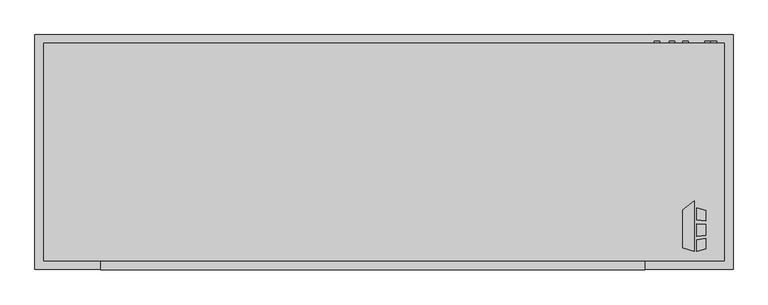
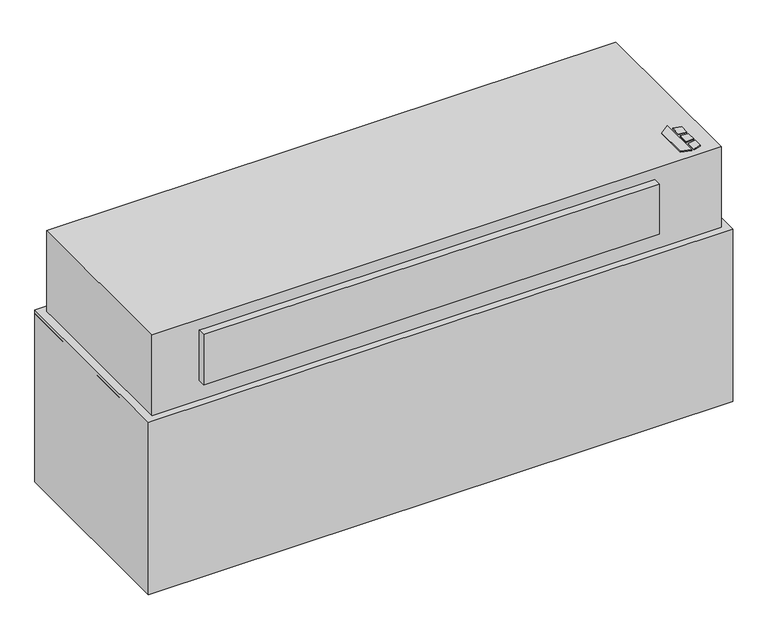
"""IFC4 building model written with IfcOpenShell, lengths in millimetres: proxy geometry, Horizontal_Telescoping_Fan_Coil_Unit_-_CBY_-_IEC_-_4-Pipe_RH_2022 : Size 12 - 277v/60Hz/1Ph - 4/1 Coil."""

from ifc_helpers import new_model, si_unit, point, frame, frame_2d, origin, origin_with_axes, place, context, project, spatial, polyline, circle_curve, trimmed, segment, composite_curve, outline, extrude, source, transform, mapped, element, save


def mechanical_equipment_d87b259f(model_context):
    return source(origin(), model_context, "Body", "SweptSolid", [
        extrude(outline(polyline([(988.7019761, -401.0078476), (1021.2602728, -375.5705184), (1021.2602728, -517.525), (988.7019761, -507.3054201), (988.7019761, -401.0078476)])), origin_with_axes(), (0.0, 0.0, 1.0), 3.175),
        extrude(outline(polyline([(1028.0186058, -428.879852), (1028.0186058, -394.3999379), (1054.1, -402.5865115), (1054.1, -432.0822446), (1028.0186058, -428.879852)])), origin_with_axes(), (0.0, 0.0, 1.0), 3.175),
        extrude(outline(polyline([(1054.1, -510.5365115), (1028.0186058, -517.525), (1028.0186058, -484.3036996), (1054.1, -480.7618564), (1054.1, -510.5365115)])), origin_with_axes(), (0.0, 0.0, 1.0), 3.175),
        extrude(outline(polyline([(1054.1, -441.1638277), (1054.1, -472.413983), (1028.0186058, -475.155248), (1028.0186058, -439.2975378), (1054.1, -441.1638277)])), origin_with_axes(), (0.0, 0.0, 1.0), 3.175),
        extrude(outline(composite_curve([segment(trimmed(circle_curve(frame_2d((-60.325, 917.575)), 7.9375), [point((-60.325, 925.5125))], [point((-60.325, 909.6375))], False, "CARTESIAN"), True, "CONTINUOUS"), segment(trimmed(circle_curve(frame_2d((-60.325, 917.575)), 7.9375), [point((-60.325, 909.6375))], [point((-60.325, 925.5125))], False, "CARTESIAN"), True, "CONTINUOUS")], self_intersect=False)), frame((0.0, 66.675, 0.0), z_axis=(0.0, 1.0, 0.0), x_axis=(0.0, 0.0, 1.0)), (0.0, 0.0, 1.0), 6.35),
        extrude(outline(composite_curve([segment(trimmed(circle_curve(frame_2d((-95.25, 958.85)), 7.9375), [point((-95.25, 966.7875))], [point((-95.25, 950.9125))], False, "CARTESIAN"), True, "CONTINUOUS"), segment(trimmed(circle_curve(frame_2d((-95.25, 958.85)), 7.9375), [point((-95.25, 950.9125))], [point((-95.25, 966.7875))], False, "CARTESIAN"), True, "CONTINUOUS")], self_intersect=False)), frame((0.0, 66.675, 0.0), z_axis=(0.0, 1.0, 0.0), x_axis=(0.0, 0.0, 1.0)), (0.0, 0.0, 1.0), 6.35),
        extrude(outline(composite_curve([segment(trimmed(circle_curve(frame_2d((-44.45, 996.95)), 7.9375), [point((-44.45, 1004.8875))], [point((-44.45, 989.0125))], False, "CARTESIAN"), True, "CONTINUOUS"), segment(trimmed(circle_curve(frame_2d((-44.45, 996.95)), 7.9375), [point((-44.45, 989.0125))], [point((-44.45, 1004.8875))], False, "CARTESIAN"), True, "CONTINUOUS")], self_intersect=False)), frame((0.0, 66.675, 0.0), z_axis=(0.0, 1.0, 0.0), x_axis=(0.0, 0.0, 1.0)), (0.0, 0.0, 1.0), 6.35),
        extrude(outline(composite_curve([segment(trimmed(circle_curve(frame_2d((-85.725, 1076.325)), 7.9375), [point((-85.725, 1084.2625))], [point((-85.725, 1068.3875))], False, "CARTESIAN"), True, "CONTINUOUS"), segment(trimmed(circle_curve(frame_2d((-85.725, 1076.325)), 7.9375), [point((-85.725, 1068.3875))], [point((-85.725, 1084.2625))], False, "CARTESIAN"), True, "CONTINUOUS")], self_intersect=False)), frame((0.0, 66.675, 0.0), z_axis=(0.0, 1.0, 0.0), x_axis=(0.0, 0.0, 1.0)), (0.0, 0.0, 1.0), 6.35),
        extrude(outline(composite_curve([segment(trimmed(circle_curve(frame_2d((-260.35, 1060.45)), 9.525), [point((-260.35, 1069.975))], [point((-260.35, 1050.925))], False, "CARTESIAN"), True, "CONTINUOUS"), segment(trimmed(circle_curve(frame_2d((-260.35, 1060.45)), 9.525), [point((-260.35, 1050.925))], [point((-260.35, 1069.975))], False, "CARTESIAN"), True, "CONTINUOUS")], self_intersect=False)), frame((0.0, 66.675, 0.0), z_axis=(0.0, 1.0, 0.0), x_axis=(0.0, 0.0, 1.0)), (0.0, 0.0, 1.0), 6.35),
        extrude(outline(polyline([(1130.3, 90.4875), (1130.3, -566.7375), (-825.5, -566.7375), (-825.5, 90.4875), (1130.3, 90.4875)])), frame((0.0, 0.0, -895.35), z_axis=(0.0, 0.0, 1.0), x_axis=(1.0, 0.0, 0.0)), (0.0, 0.0, 1.0), 609.6),
        extrude(outline(polyline([(1130.3, 90.4875), (1130.3, -566.7375), (-825.5, -566.7375), (-825.5, 90.4875), (1130.3, 90.4875)])), frame((0.0, 0.0, -311.15), z_axis=(0.0, 0.0, 1.0), x_axis=(1.0, 0.0, 0.0)), (0.0, 0.0, 1.0), 12.7),
        extrude(outline(polyline([(1130.3, 90.4875), (1130.3, -566.7375), (-825.5, -566.7375), (-825.5, 90.4875), (1130.3, 90.4875)])), frame((0.0, 0.0, -292.1), z_axis=(0.0, 0.0, 1.0), x_axis=(1.0, 0.0, 0.0)), (0.0, 0.0, 1.0), 6.35),
        extrude(outline(polyline([(1104.9, 65.0875), (1104.9, -541.3375), (-800.1, -541.3375), (-800.1, 65.0875), (1104.9, 65.0875)])), frame((0.0, 0.0, -298.45), z_axis=(0.0, 0.0, 1.0), x_axis=(1.0, 0.0, 0.0)), (0.0, 0.0, 1.0), 6.35),
        extrude(outline(polyline([(882.65, -568.325), (-641.35, -568.325), (-641.35, -542.925), (882.65, -542.925), (882.65, -568.325)])), frame((0.0, 0.0, -215.9), z_axis=(0.0, 0.0, 1.0), x_axis=(1.0, 0.0, 0.0)), (0.0, 0.0, 1.0), 177.8),
        extrude(outline(polyline([(-800.1, 66.675), (1104.9, 66.675), (1104.9, -542.925), (-800.1, -542.925), (-800.1, 66.675)])), frame((0.0, 0.0, -285.75), z_axis=(0.0, 0.0, 1.0), x_axis=(1.0, 0.0, 0.0)), (0.0, 0.0, 1.0), 285.75),
        extrude(outline(polyline([(939.8, -9.525), (939.8, -263.525), (-635.0, -263.525), (-635.0, -9.525), (939.8, -9.525)])), frame((0.0, 0.0, -317.5), z_axis=(0.0, 0.0, 1.0), x_axis=(1.0, 0.0, 0.0)), (0.0, 0.0, 1.0), 6.35),
    ])


if __name__ == "__main__":
    model = new_model("IFC4")
    model_context = context("Model", 3, world=origin())
    ifc_project = project(units=[si_unit("LENGTHUNIT", "METRE", prefix="MILLI")], contexts=[model_context])
    site = spatial("IfcSite", under=ifc_project)
    building = spatial("IfcBuilding", under=site)
    placement = place(None, origin())
    mechanical_equipment_shape = mechanical_equipment_d87b259f(model_context)
    element("IfcBuildingElementProxy", 1, Name="Horizontal_Telescoping_Fan_Coil_Unit_-_CBY_-_IEC_-_4-Pipe_RH_2022 : Size 12 - 277v/60Hz/1Ph - 4/1 Coil", ObjectType="Horizontal_Telescoping_Fan_Coil_Unit_-_CBY_-_IEC_-_4-Pipe_RH_2022 : Size 12 - 277v/60Hz/1Ph - 4/1 Coil", at=placement, inside=building, context=model_context, shape_type="MappedRepresentation", body=[
        mapped(mechanical_equipment_shape, transform((0.0, 0.0, 0.0), x_axis=(1.0, 0.0, 0.0), y_axis=(0.0, 1.0, 0.0), z_axis=(0.0, 0.0, 1.0))),
    ])
    save(model, "model.ifc")
